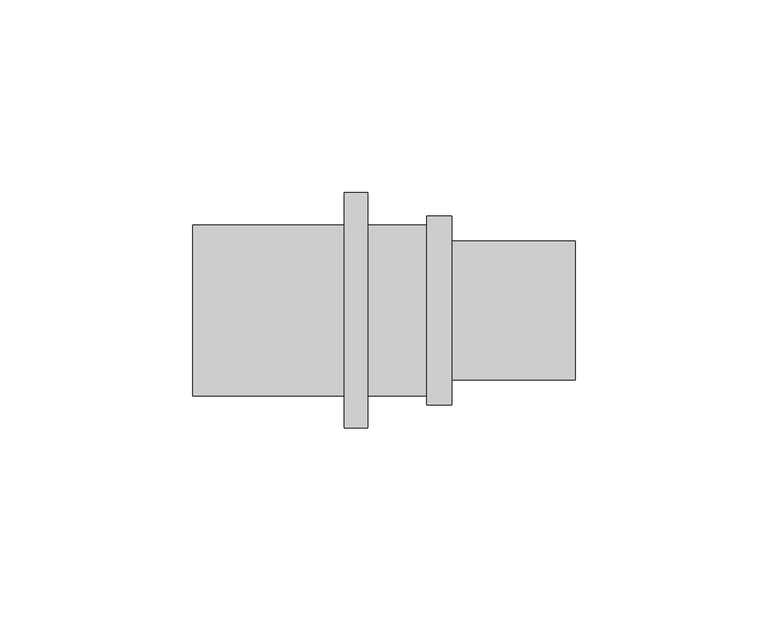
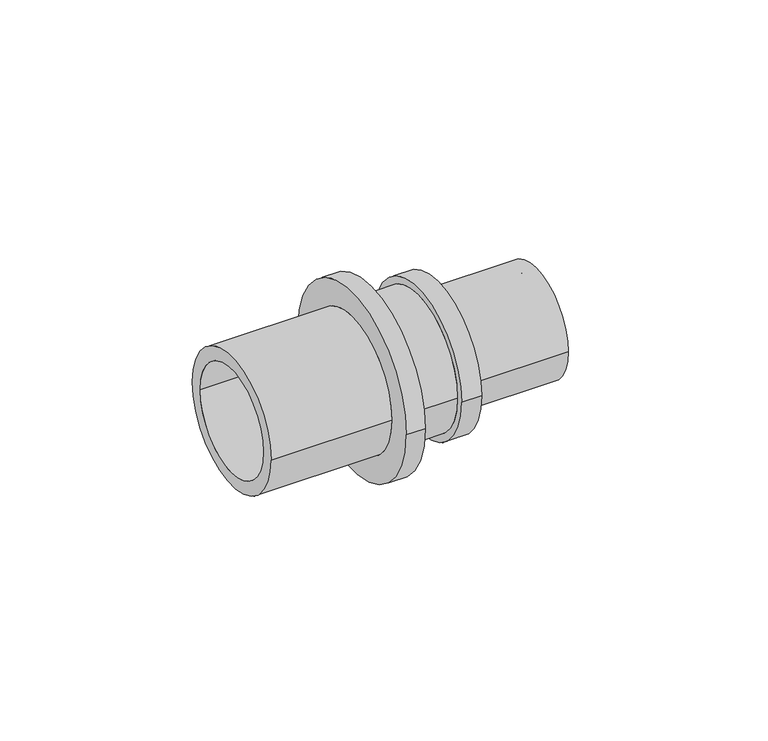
"""IFC4 building model written with IfcOpenShell, lengths in millimetres: pipe fitting geometry, Coupling transistion : C RE SDR11 LX."""

from ifc_helpers import new_model, si_unit, frame, origin, place, context, project, spatial, polyline, circle_curve, source, transform, mapped, element, save
from ifc_brep_helpers import plane_surface, cylinder_surface, revolved_surface, advanced_brep


def pipe_fitting_3aadb600(model_context):
    return source(origin(), model_context, "Body", "AdvancedBrep", [
        advanced_brep(
        [(-13.8, 22.15, 0.0), (-13.8, -22.15, 0.0), (-53.0, -22.15, 0.0), (-53.0, 22.15, 0.0), (-7.7, 30.5, 0.0), (-7.7, -30.5, 0.0), (-13.8, -30.5, 0.0), (-13.8, 30.5, 0.0), (7.6, 22.15, 0.0), (7.6, -22.15, 0.0), (-7.7, -22.15, 0.0), (-7.7, 22.15, 0.0), (14.1, 24.5, 0.0), (14.1, -24.5, 0.0), (7.6, -24.5, 0.0), (7.6, 24.5, 0.0), (46.0, 18.0, 0.0), (46.0, -18.0, 0.0), (14.1, -18.0, 0.0), (14.1, 18.0, 0.0), (0.0, 13.75, 0.0), (0.0, -13.75, 0.0), (46.0, -13.75, 0.0), (46.0, 13.75, 0.0), (-53.0, 17.75, 0.0), (-53.0, -17.75, 0.0), (0.0, -17.75, 0.0), (0.0, 17.75, 0.0)],
        [
            (0, 1, circle_curve(frame((-13.8, 0.0, 0.0), z_axis=(-1.0, 0.0, 0.0), x_axis=(0.0, -1.0, 0.0)), 22.15)),
            (1, 2),
            (2, 3, circle_curve(frame((-53.0, 0.0, 0.0), z_axis=(1.0, 0.0, 0.0), x_axis=(0.0, -1.0, 0.0)), 22.15)),
            (3, 0),
            (4, 5, circle_curve(frame((-7.7, 0.0, 0.0), z_axis=(-1.0, 0.0, 0.0), x_axis=(0.0, -1.0, 0.0)), 30.5)),
            (5, 6),
            (6, 7, circle_curve(frame((-13.8, 0.0, 0.0), z_axis=(1.0, 0.0, 0.0), x_axis=(0.0, -1.0, 0.0)), 30.5)),
            (7, 4),
            (8, 9, circle_curve(frame((7.6, 0.0, 0.0), z_axis=(-1.0, 0.0, 0.0), x_axis=(0.0, -1.0, 0.0)), 22.15)),
            (9, 10),
            (10, 11, circle_curve(frame((-7.7, 0.0, 0.0), z_axis=(1.0, 0.0, 0.0), x_axis=(0.0, -1.0, 0.0)), 22.15)),
            (11, 8),
            (12, 13, circle_curve(frame((14.1, 0.0, 0.0), z_axis=(-1.0, 0.0, 0.0), x_axis=(0.0, -1.0, 0.0)), 24.5)),
            (13, 14),
            (14, 15, circle_curve(frame((7.6, 0.0, 0.0), z_axis=(1.0, 0.0, 0.0), x_axis=(0.0, -1.0, 0.0)), 24.5)),
            (15, 12),
            (16, 17, circle_curve(frame((46.0, 0.0, 0.0), z_axis=(-1.0, 0.0, 0.0), x_axis=(0.0, -1.0, 0.0)), 18.0)),
            (17, 18),
            (18, 19, circle_curve(frame((14.1, 0.0, 0.0), z_axis=(1.0, 0.0, 0.0), x_axis=(0.0, -1.0, 0.0)), 18.0)),
            (19, 16),
            (20, 21, circle_curve(frame((0.0, 0.0, 0.0), z_axis=(-1.0, 0.0, 0.0), x_axis=(0.0, -1.0, 0.0)), 13.75)),
            (21, 22),
            (22, 23, circle_curve(frame((46.0, 0.0, 0.0), z_axis=(1.0, 0.0, 0.0), x_axis=(0.0, -1.0, 0.0)), 13.75)),
            (23, 20),
            (24, 25, circle_curve(frame((-53.0, 0.0, 0.0), z_axis=(-1.0, 0.0, 0.0), x_axis=(0.0, -1.0, 0.0)), 17.75)),
            (25, 26),
            (26, 27, circle_curve(frame((0.0, 0.0, 0.0), z_axis=(1.0, 0.0, 0.0), x_axis=(0.0, -1.0, 0.0)), 17.75)),
            (27, 24),
            (2, 3, circle_curve(frame((-53.0, 0.0, 0.0), z_axis=(-1.0, 0.0, 0.0), x_axis=(0.0, 1.0, 0.0)), 22.15)),
            (24, 25, circle_curve(frame((-53.0, 0.0, 0.0), z_axis=(1.0, 0.0, 0.0), x_axis=(0.0, 1.0, 0.0)), 17.75)),
            (1, 0, circle_curve(frame((-13.8, 0.0, 0.0), z_axis=(-1.0, 0.0, 0.0), x_axis=(0.0, 1.0, 0.0)), 22.15)),
            (6, 7, circle_curve(frame((-13.8, 0.0, 0.0), z_axis=(-1.0, 0.0, 0.0), x_axis=(0.0, 1.0, 0.0)), 30.5)),
            (5, 4, circle_curve(frame((-7.7, 0.0, 0.0), z_axis=(-1.0, 0.0, 0.0), x_axis=(0.0, 1.0, 0.0)), 30.5)),
            (10, 11, circle_curve(frame((-7.7, 0.0, 0.0), z_axis=(-1.0, 0.0, 0.0), x_axis=(0.0, 1.0, 0.0)), 22.15)),
            (9, 8, circle_curve(frame((7.6, 0.0, 0.0), z_axis=(-1.0, 0.0, 0.0), x_axis=(0.0, 1.0, 0.0)), 22.15)),
            (14, 15, circle_curve(frame((7.6, 0.0, 0.0), z_axis=(-1.0, 0.0, 0.0), x_axis=(0.0, 1.0, 0.0)), 24.5)),
            (13, 12, circle_curve(frame((14.1, 0.0, 0.0), z_axis=(-1.0, 0.0, 0.0), x_axis=(0.0, 1.0, 0.0)), 24.5)),
            (18, 19, circle_curve(frame((14.1, 0.0, 0.0), z_axis=(-1.0, 0.0, 0.0), x_axis=(0.0, 1.0, 0.0)), 18.0)),
            (17, 16, circle_curve(frame((46.0, 0.0, 0.0), z_axis=(-1.0, 0.0, 0.0), x_axis=(0.0, 1.0, 0.0)), 18.0)),
            (22, 23, circle_curve(frame((46.0, 0.0, 0.0), z_axis=(-1.0, 0.0, 0.0), x_axis=(0.0, 1.0, 0.0)), 13.75)),
            (21, 20, circle_curve(frame((0.0, 0.0, 0.0), z_axis=(-1.0, 0.0, 0.0), x_axis=(0.0, 1.0, 0.0)), 13.75)),
            (26, 27, circle_curve(frame((0.0, 0.0, 0.0), z_axis=(-1.0, 0.0, 0.0), x_axis=(0.0, 1.0, 0.0)), 17.75)),
        ],
        [
            cylinder_surface(frame((0.0, 0.0, 0.0), z_axis=(1.0, 0.0, 0.0), x_axis=(0.0, -1.0, 0.0)), 22.15),
            cylinder_surface(frame((0.0, 0.0, 0.0), z_axis=(1.0, 0.0, 0.0), x_axis=(0.0, -1.0, 0.0)), 30.5),
            cylinder_surface(frame((0.0, 0.0, 0.0), z_axis=(1.0, 0.0, 0.0), x_axis=(0.0, -1.0, 0.0)), 24.5),
            cylinder_surface(frame((0.0, 0.0, 0.0), z_axis=(1.0, 0.0, 0.0), x_axis=(0.0, -1.0, 0.0)), 18.0),
            revolved_surface(polyline([(46.0, -13.75, 0.0), (0.0, -13.75, 0.0)]), (0.0, 0.0, 0.0), (1.0, 0.0, 0.0)),
            revolved_surface(polyline([(0.0, -17.75, 0.0), (-53.0, -17.75, 0.0)]), (0.0, 0.0, 0.0), (1.0, 0.0, 0.0)),
            plane_surface(frame((-53.0, 0.0, 0.0), z_axis=(-1.0, 0.0, 0.0), x_axis=(0.0, 1.0, 0.0))),
            cylinder_surface(frame((0.0, 0.0, 0.0), z_axis=(1.0, 0.0, 0.0), x_axis=(0.0, 1.0, 0.0)), 22.15),
            plane_surface(frame((-13.8, 0.0, 0.0), z_axis=(-1.0, 0.0, 0.0), x_axis=(0.0, 1.0, 0.0))),
            cylinder_surface(frame((0.0, 0.0, 0.0), z_axis=(1.0, 0.0, 0.0), x_axis=(0.0, 1.0, 0.0)), 30.5),
            plane_surface(frame((-7.7, 0.0, 0.0), z_axis=(1.0, 0.0, 0.0), x_axis=(0.0, 1.0, 0.0))),
            plane_surface(frame((7.6, 0.0, 0.0), z_axis=(-1.0, 0.0, 0.0), x_axis=(0.0, 1.0, 0.0))),
            cylinder_surface(frame((0.0, 0.0, 0.0), z_axis=(1.0, 0.0, 0.0), x_axis=(0.0, 1.0, 0.0)), 24.5),
            plane_surface(frame((14.1, 0.0, 0.0), z_axis=(1.0, 0.0, 0.0), x_axis=(0.0, 1.0, 0.0))),
            cylinder_surface(frame((0.0, 0.0, 0.0), z_axis=(1.0, 0.0, 0.0), x_axis=(0.0, 1.0, 0.0)), 18.0),
            plane_surface(frame((46.0, 0.0, 0.0), z_axis=(1.0, 0.0, 0.0), x_axis=(0.0, 1.0, 0.0))),
            revolved_surface(polyline([(46.0, 13.75, 0.0), (0.0, 13.75, 0.0)]), (0.0, 0.0, 0.0), (1.0, 0.0, 0.0)),
            plane_surface(frame((0.0, 0.0, 0.0), z_axis=(-1.0, 0.0, 0.0), x_axis=(0.0, 1.0, 0.0))),
            revolved_surface(polyline([(0.0, 17.75, 0.0), (-53.0, 17.75, 0.0)]), (0.0, 0.0, 0.0), (1.0, 0.0, 0.0)),
        ],
        [
            (0, [[1, 2, 3, 4]]),
            (1, [[5, 6, 7, 8]]),
            (0, [[9, 10, 11, 12]]),
            (2, [[13, 14, 15, 16]]),
            (3, [[17, 18, 19, 20]]),
            (4, [[21, 22, 23, 24]]),
            (5, [[25, 26, 27, 28]]),
            (6, [[29, -3], [30, -25]]),
            (7, [[31, -4, -29, -2]]),
            (8, [[32, -7], [-31, -1]]),
            (9, [[33, -8, -32, -6]]),
            (10, [[-33, -5], [34, -11]]),
            (7, [[35, -12, -34, -10]]),
            (11, [[36, -15], [-35, -9]]),
            (12, [[37, -16, -36, -14]]),
            (13, [[-37, -13], [38, -19]]),
            (14, [[39, -20, -38, -18]]),
            (15, [[-39, -17], [40, -23]]),
            (16, [[41, -24, -40, -22]]),
            (17, [[42, -27], [-41, -21]]),
            (18, [[-30, -28, -42, -26]]),
        ],
    ),
    ])


if __name__ == "__main__":
    model = new_model("IFC4")
    model_context = context("Model", 3, world=origin())
    ifc_project = project(units=[si_unit("LENGTHUNIT", "METRE", prefix="MILLI")], contexts=[model_context])
    site = spatial("IfcSite", under=ifc_project)
    building = spatial("IfcBuilding", under=site)
    placement = place(None, origin())
    pipe_fitting_shape = pipe_fitting_3aadb600(model_context)
    element("IfcPipeFitting", 1, ObjectType="Coupling transistion : C RE SDR11 LX", at=placement, inside=building, context=model_context, shape_type="MappedRepresentation", body=[
        mapped(pipe_fitting_shape, transform((0.0, 0.0, 0.0), x_axis=(1.0, 0.0, 0.0), y_axis=(0.0, 1.0, 0.0), z_axis=(0.0, 0.0, 1.0))),
    ])
    save(model, "model.ifc")
